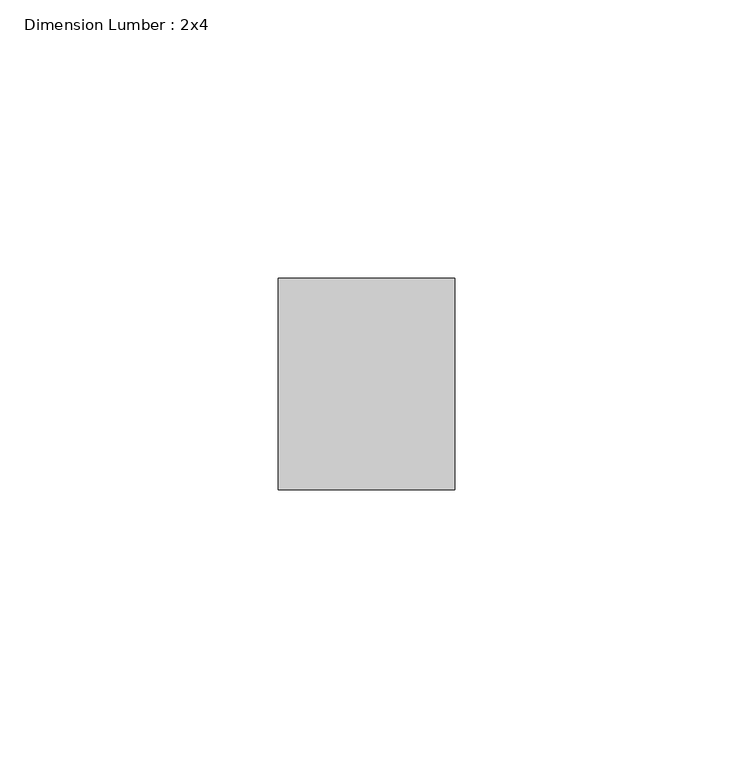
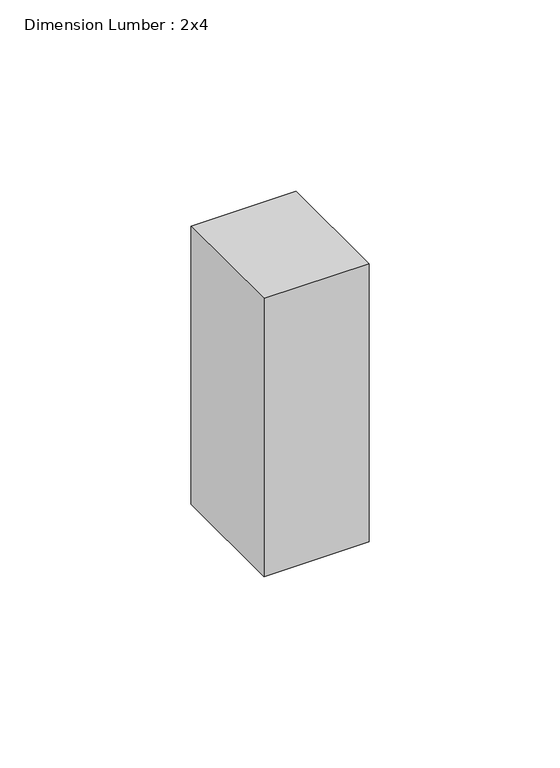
"""IFC4 building model written with IfcOpenShell, lengths in millimetres: beam geometry, Dimension Lumber : 2x4."""

from ifc_helpers import new_model, si_unit, frame, origin, place, context, project, spatial, polyline, outline, extrude, source, transform, mapped, element, save


def dimension_lumber_2x4_aa235227(model_context):
    return source(origin(), model_context, "Body", "SweptSolid", [
        extrude(outline(polyline([(15.875, 19.05), (15.875, -19.05), (-15.875, -19.05), (-15.875, 19.05), (15.875, 19.05)])), frame((0.0, 0.0, -44.45), z_axis=(0.0, 0.0, 1.0), x_axis=(1.0, 0.0, 0.0)), (0.0, 0.0, 1.0), 88.9),
    ])


if __name__ == "__main__":
    model = new_model("IFC4")
    model_context = context("Model", 3, world=origin())
    ifc_project = project(units=[si_unit("LENGTHUNIT", "METRE", prefix="MILLI")], contexts=[model_context])
    site = spatial("IfcSite", under=ifc_project)
    building = spatial("IfcBuilding", under=site)
    placement = place(None, origin())
    dimension_lumber_2x4_shape = dimension_lumber_2x4_aa235227(model_context)
    element("IfcBeam", 1, ObjectType="Dimension Lumber : 2x4", at=placement, inside=building, context=model_context, shape_type="MappedRepresentation", body=[
        mapped(dimension_lumber_2x4_shape, transform((0.0, 0.0, 0.0), x_axis=(1.0, 0.0, 0.0), y_axis=(0.0, 1.0, 0.0), z_axis=(0.0, 0.0, 1.0))),
    ])
    save(model, "model.ifc")
